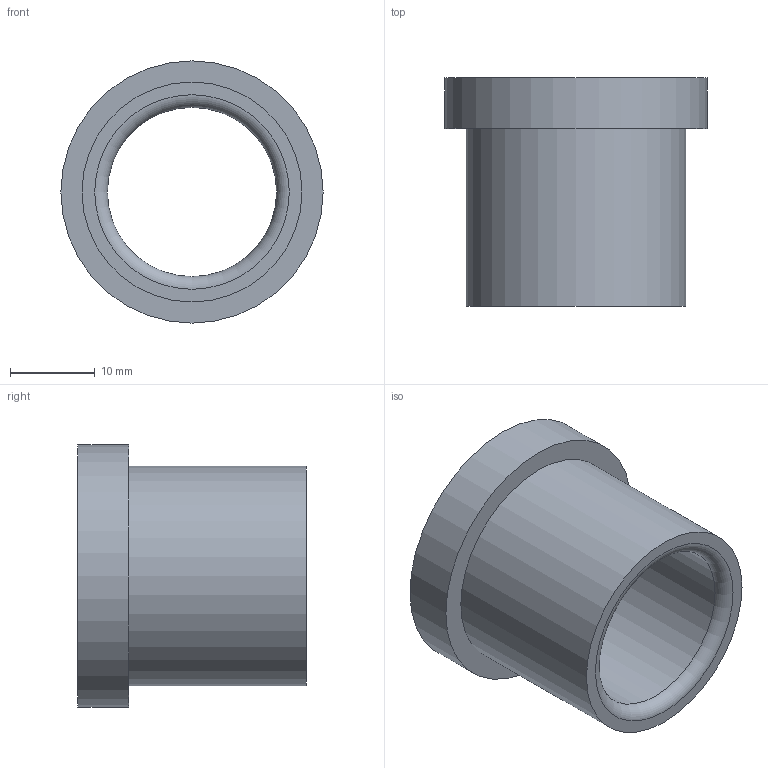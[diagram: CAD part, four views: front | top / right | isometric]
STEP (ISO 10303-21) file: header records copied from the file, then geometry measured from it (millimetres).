
FILE_DESCRIPTION(/* description */ ('STEP AP214'),/* implementation_level */ '2;1');
FILE_NAME(/* name */ '03_12_17922',/* time_stamp */ '2023-06-15T11:35:31+02:00',/* author */ ('License CC BY-ND 4.0'),/* organization */ ('CADENAS'),/* preprocessor_version */ 'ST-DEVELOPER v19.3',/* originating_system */ 'PARTsolutions',/* authorisation */ ' ');
FILE_SCHEMA (('AUTOMOTIVE_DESIGN {1 0 10303 214 3 1 1}'));
Length unit declared in the file: millimetre
Products named in the file (1): VA_Bushing_17922
Bounding box: 31 x 27 x 31 mm (x, y, z)
Volume: 7028.9 mm3; surface area: 4807.4 mm2
Topology: 1 solids, 1 shells, 10 faces, 16 edges, 10 vertices
Faces by surface type: cylinder 4, plane 4, torus 2
Full cylindrical faces by diameter (mm): 20 x1, 20.6 x1, 26 x1, 31 x1
Entity records: 302 total; most frequent: DIRECTION 42, CARTESIAN_POINT 31, AXIS2_PLACEMENT_3D 21, ORIENTED_EDGE 20, EDGE_LOOP 20, FACE_BOUND 20, EDGE_CURVE 10, VERTEX_POINT 10
